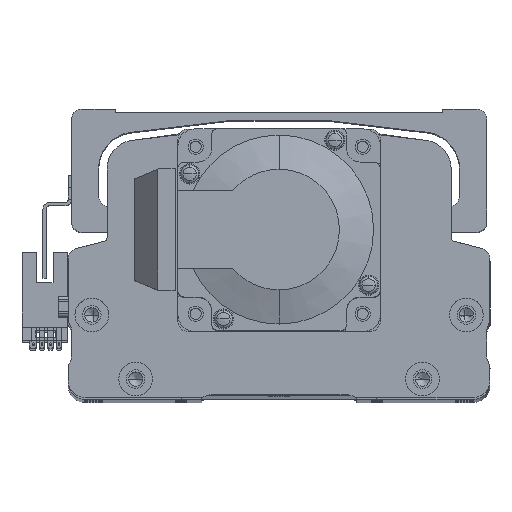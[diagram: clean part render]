
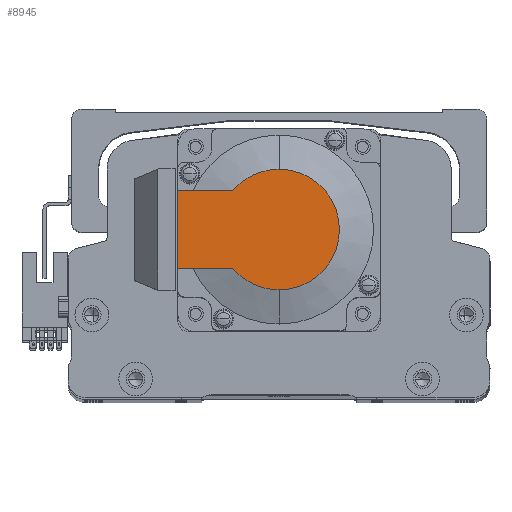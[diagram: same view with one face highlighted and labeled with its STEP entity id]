
A CAD part, top view. The second image highlights one B-rep face of the part: STEP entity #8945.
In plain terms, the highlighted planar face has unit normal (0, 0, 1) as drawn and (-1, 0, 0) by its records, which use the part's own axes.
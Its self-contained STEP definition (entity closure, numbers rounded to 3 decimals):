
#159 = FACE_OUTER_BOUND ( 'NONE', #13143, .T. ) ;
#4596 = CARTESIAN_POINT ( 'NONE',  ( -118.5, 0., -17.881 ) ) ;
#5382 = DIRECTION ( 'NONE',  ( -1., 0., 0. ) ) ;
#5810 = CARTESIAN_POINT ( 'NONE',  ( -118.5, 13.735, -11.45 ) ) ;
#6082 = CARTESIAN_POINT ( 'NONE',  ( -118.5, 0., 0. ) ) ;
#7129 = VERTEX_POINT ( 'NONE', #4596 ) ;
#8945 = ADVANCED_FACE ( 'NONE', ( #159 ), #32081, .T. ) ;
#9066 = EDGE_CURVE ( 'NONE', #32100, #32836, #18004, .T. ) ;
#9959 = DIRECTION ( 'NONE',  ( 0., 0., 1. ) ) ;
#10072 = VERTEX_POINT ( 'NONE', #49133 ) ;
#10374 = DIRECTION ( 'NONE',  ( 0., 0., -1. ) ) ;
#11352 = CARTESIAN_POINT ( 'NONE',  ( -118.5, -8.941, 0. ) ) ;
#13143 = EDGE_LOOP ( 'NONE', ( #13793, #42603, #39436, #29795, #41644, #41680 ) ) ;
#13793 = ORIENTED_EDGE ( 'NONE', *, *, #37872, .T. ) ;
#15587 = DIRECTION ( 'NONE',  ( 0., 0., 1. ) ) ;
#15810 = CARTESIAN_POINT ( 'NONE',  ( -118.5, -8.941, -11.45 ) ) ;
#16174 = VECTOR ( 'NONE', #45413, 1000. ) ;
#16855 = AXIS2_PLACEMENT_3D ( 'NONE', #30805, #5382, #35042 ) ;
#18004 = LINE ( 'NONE', #33345, #27933 ) ;
#19696 = CARTESIAN_POINT ( 'NONE',  ( -118.5, 13.735, 11.45 ) ) ;
#22721 = DIRECTION ( 'NONE',  ( -1., 0., 0. ) ) ;
#23457 = VECTOR ( 'NONE', #9959, 1000. ) ;
#25291 = EDGE_CURVE ( 'NONE', #27301, #7129, #53535, .T. ) ;
#25975 = EDGE_CURVE ( 'NONE', #7129, #54124, #50756, .T. ) ;
#27301 = VERTEX_POINT ( 'NONE', #5810 ) ;
#27933 = VECTOR ( 'NONE', #41635, 1000. ) ;
#29795 = ORIENTED_EDGE ( 'NONE', *, *, #47198, .T. ) ;
#30805 = CARTESIAN_POINT ( 'NONE',  ( -118.5, 0., 0. ) ) ;
#32081 = PLANE ( 'NONE',  #52411 ) ;
#32100 = VERTEX_POINT ( 'NONE', #40272 ) ;
#32836 = VERTEX_POINT ( 'NONE', #19696 ) ;
#33345 = CARTESIAN_POINT ( 'NONE',  ( -118.5, 0., 11.45 ) ) ;
#34720 = LINE ( 'NONE', #52205, #23457 ) ;
#35042 = DIRECTION ( 'NONE',  ( 0., 0., -1. ) ) ;
#35727 = DIRECTION ( 'NONE',  ( -1., 0., 0. ) ) ;
#36700 = CARTESIAN_POINT ( 'NONE',  ( -118.5, 0., 17.881 ) ) ;
#37822 = CIRCLE ( 'NONE', #54697, 17.881 ) ;
#37872 = EDGE_CURVE ( 'NONE', #10072, #27301, #50017, .T. ) ;
#38064 = AXIS2_PLACEMENT_3D ( 'NONE', #48113, #22721, #52369 ) ;
#39436 = ORIENTED_EDGE ( 'NONE', *, *, #25975, .T. ) ;
#40272 = CARTESIAN_POINT ( 'NONE',  ( -118.5, 30., 11.45 ) ) ;
#40907 = DIRECTION ( 'NONE',  ( -1., 0., 0. ) ) ;
#41635 = DIRECTION ( 'NONE',  ( 0., -1., 0. ) ) ;
#41644 = ORIENTED_EDGE ( 'NONE', *, *, #9066, .F. ) ;
#41680 = ORIENTED_EDGE ( 'NONE', *, *, #53546, .F. ) ;
#42603 = ORIENTED_EDGE ( 'NONE', *, *, #25291, .T. ) ;
#45413 = DIRECTION ( 'NONE',  ( 0., -1., 0. ) ) ;
#47198 = EDGE_CURVE ( 'NONE', #54124, #32836, #37822, .T. ) ;
#48113 = CARTESIAN_POINT ( 'NONE',  ( -118.5, 0., 0. ) ) ;
#49133 = CARTESIAN_POINT ( 'NONE',  ( -118.5, 30., -11.45 ) ) ;
#50017 = LINE ( 'NONE', #15810, #16174 ) ;
#50756 = CIRCLE ( 'NONE', #16855, 17.881 ) ;
#52205 = CARTESIAN_POINT ( 'NONE',  ( -118.5, 30., 25. ) ) ;
#52369 = DIRECTION ( 'NONE',  ( 0., 0., -1. ) ) ;
#52411 = AXIS2_PLACEMENT_3D ( 'NONE', #11352, #40907, #15587 ) ;
#53535 = CIRCLE ( 'NONE', #38064, 17.881 ) ;
#53546 = EDGE_CURVE ( 'NONE', #10072, #32100, #34720, .T. ) ;
#54124 = VERTEX_POINT ( 'NONE', #36700 ) ;
#54697 = AXIS2_PLACEMENT_3D ( 'NONE', #6082, #35727, #10374 ) ;
